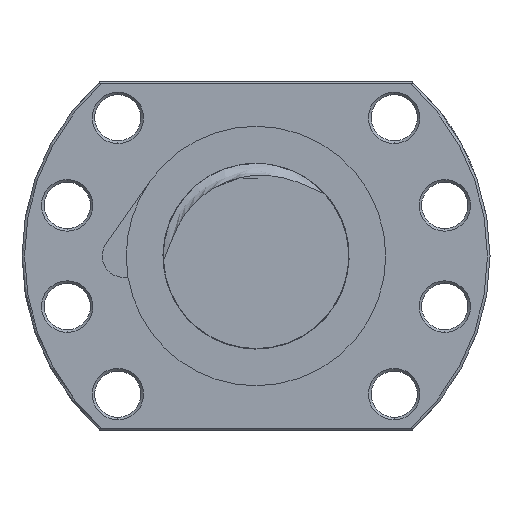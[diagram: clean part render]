
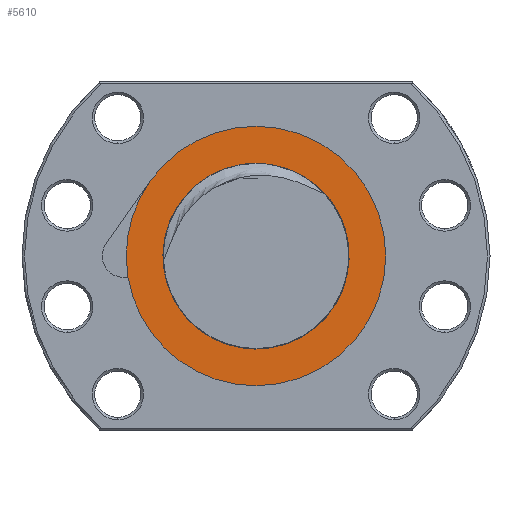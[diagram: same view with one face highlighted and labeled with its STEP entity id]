
A CAD part, left-side view. The second image highlights one B-rep face of the part: STEP entity #5610.
In plain terms, the highlighted planar face has unit normal (-1, 0, 0).
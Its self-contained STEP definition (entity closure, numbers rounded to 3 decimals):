
#4780 = VERTEX_POINT ( 'NONE', #6690 ) ;
#4784 = EDGE_CURVE ( 'NONE', #4780, #4786, #6605, .T. ) ;
#4786 = VERTEX_POINT ( 'NONE', #6600 ) ;
#5065 = EDGE_CURVE ( 'NONE', #5066, #5326, #7054, .T. ) ;
#5066 = VERTEX_POINT ( 'NONE', #7173 ) ;
#5326 = VERTEX_POINT ( 'NONE', #7542 ) ;
#5328 = EDGE_CURVE ( 'NONE', #5326, #5329, #7537, .T. ) ;
#5329 = VERTEX_POINT ( 'NONE', #7532 ) ;
#5341 = VERTEX_POINT ( 'NONE', #7736 ) ;
#5350 = EDGE_CURVE ( 'NONE', #5329, #5341, #7715, .T. ) ;
#5607 = VERTEX_POINT ( 'NONE', #21074 ) ;
#5609 = EDGE_CURVE ( 'NONE', #5607, #4780, #20703, .T. ) ;
#5610 = ADVANCED_FACE ( 'NONE', ( #20720, #20753 ), #20750, .T. ) ;
#5611 = EDGE_LOOP ( 'NONE', ( #5612, #5613, #5615 ) ) ;
#5612 = ORIENTED_EDGE ( 'NONE', *, *, #5609, .F. ) ;
#5613 = ORIENTED_EDGE ( 'NONE', *, *, #5614, .F. ) ;
#5614 = EDGE_CURVE ( 'NONE', #4786, #5607, #20799, .T. ) ;
#5615 = ORIENTED_EDGE ( 'NONE', *, *, #4784, .F. ) ;
#5622 = EDGE_LOOP ( 'NONE', ( #5623, #5640, #5641, #5642 ) ) ;
#5623 = ORIENTED_EDGE ( 'NONE', *, *, #5624, .T. ) ;
#5624 = EDGE_CURVE ( 'NONE', #5341, #5066, #21490, .T. ) ;
#5640 = ORIENTED_EDGE ( 'NONE', *, *, #5065, .T. ) ;
#5641 = ORIENTED_EDGE ( 'NONE', *, *, #5328, .T. ) ;
#5642 = ORIENTED_EDGE ( 'NONE', *, *, #5350, .T. ) ;
#6600 = CARTESIAN_POINT ( 'NONE',  ( -108.8, -14.421, 10.938 ) ) ;
#6601 = DIRECTION ( 'NONE',  ( 0., 0., 1. ) ) ;
#6602 = DIRECTION ( 'NONE',  ( -1., 0., 0. ) ) ;
#6603 = CARTESIAN_POINT ( 'NONE',  ( -108.8, 0., 0. ) ) ;
#6604 = AXIS2_PLACEMENT_3D ( 'NONE', #6603, #6602, #6601 ) ;
#6605 = CIRCLE ( 'NONE', #6604, 18.1 ) ;
#6690 = CARTESIAN_POINT ( 'NONE',  ( -108.8, 0., -18.1 ) ) ;
#7054 = CIRCLE ( 'NONE', #7191, 25.225 ) ;
#7173 = CARTESIAN_POINT ( 'NONE',  ( -108.8, 24.891, -4.091 ) ) ;
#7174 = DIRECTION ( 'NONE',  ( 0., 0., 1. ) ) ;
#7189 = DIRECTION ( 'NONE',  ( -1., 0., 0. ) ) ;
#7190 = CARTESIAN_POINT ( 'NONE',  ( -108.8, 0., 0. ) ) ;
#7191 = AXIS2_PLACEMENT_3D ( 'NONE', #7190, #7189, #7174 ) ;
#7532 = CARTESIAN_POINT ( 'NONE',  ( -108.8, 0., 25.225 ) ) ;
#7533 = DIRECTION ( 'NONE',  ( 0., 0., 1. ) ) ;
#7534 = DIRECTION ( 'NONE',  ( -1., 0., 0. ) ) ;
#7535 = CARTESIAN_POINT ( 'NONE',  ( -108.8, 0., 0. ) ) ;
#7536 = AXIS2_PLACEMENT_3D ( 'NONE', #7535, #7534, #7533 ) ;
#7537 = CIRCLE ( 'NONE', #7536, 25.225 ) ;
#7542 = CARTESIAN_POINT ( 'NONE',  ( -108.8, 0., -25.225 ) ) ;
#7711 = DIRECTION ( 'NONE',  ( 0., 0., 1. ) ) ;
#7712 = DIRECTION ( 'NONE',  ( -1., 0., 0. ) ) ;
#7713 = CARTESIAN_POINT ( 'NONE',  ( -108.8, 0., 0. ) ) ;
#7714 = AXIS2_PLACEMENT_3D ( 'NONE', #7713, #7712, #7711 ) ;
#7715 = CIRCLE ( 'NONE', #7714, 25.225 ) ;
#7736 = CARTESIAN_POINT ( 'NONE',  ( -108.8, 20.641, 14.5 ) ) ;
#20466 = CARTESIAN_POINT ( 'NONE',  ( -108.8, 15.483, 5.707 ) ) ;
#20468 = CARTESIAN_POINT ( 'NONE',  ( -108.8, 15.059, 6.441 ) ) ;
#20470 = CARTESIAN_POINT ( 'NONE',  ( -108.8, 14.122, 7.862 ) ) ;
#20472 = CARTESIAN_POINT ( 'NONE',  ( -108.8, 13.616, 8.539 ) ) ;
#20474 = CARTESIAN_POINT ( 'NONE',  ( -108.8, 12.524, 9.82 ) ) ;
#20475 = CARTESIAN_POINT ( 'NONE',  ( -108.8, 11.938, 10.425 ) ) ;
#20477 = CARTESIAN_POINT ( 'NONE',  ( -108.8, 10.995, 11.274 ) ) ;
#20479 = CARTESIAN_POINT ( 'NONE',  ( -108.8, 10.668, 11.548 ) ) ;
#20481 = CARTESIAN_POINT ( 'NONE',  ( -108.8, 9.999, 12.072 ) ) ;
#20496 = CARTESIAN_POINT ( 'NONE',  ( -108.8, 9.657, 12.322 ) ) ;
#20501 = CARTESIAN_POINT ( 'NONE',  ( -108.8, 8.61, 13.03 ) ) ;
#20502 = CARTESIAN_POINT ( 'NONE',  ( -108.8, 7.883, 13.452 ) ) ;
#20703 = CIRCLE ( 'NONE', #20718, 18.1 ) ;
#20714 = DIRECTION ( 'NONE',  ( -1., 0., 0. ) ) ;
#20716 = CARTESIAN_POINT ( 'NONE',  ( -108.8, 0., 0. ) ) ;
#20718 = AXIS2_PLACEMENT_3D ( 'NONE', #20716, #20714, #20755 ) ;
#20720 = FACE_BOUND ( 'NONE', #5611, .T. ) ;
#20729 = CARTESIAN_POINT ( 'NONE',  ( -108.8, 6.749, 14.007 ) ) ;
#20731 = CARTESIAN_POINT ( 'NONE',  ( -108.8, 6.364, 14.179 ) ) ;
#20733 = CARTESIAN_POINT ( 'NONE',  ( -108.8, 5.579, 14.496 ) ) ;
#20735 = CARTESIAN_POINT ( 'NONE',  ( -108.8, 5.177, 14.642 ) ) ;
#20737 = CARTESIAN_POINT ( 'NONE',  ( -108.8, 3.16, 15.295 ) ) ;
#20739 = CARTESIAN_POINT ( 'NONE',  ( -108.8, 1.508, 15.579 ) ) ;
#20740 = CARTESIAN_POINT ( 'NONE',  ( -108.8, -0.603, 15.645 ) ) ;
#20742 = CARTESIAN_POINT ( 'NONE',  ( -108.8, -1.029, 15.644 ) ) ;
#20744 = CARTESIAN_POINT ( 'NONE',  ( -108.8, -1.878, 15.611 ) ) ;
#20746 = CARTESIAN_POINT ( 'NONE',  ( -108.8, -2.3, 15.58 ) ) ;
#20748 = CARTESIAN_POINT ( 'NONE',  ( -108.8, -3.558, 15.446 ) ) ;
#20750 = PLANE ( 'NONE',  #20808 ) ;
#20753 = FACE_OUTER_BOUND ( 'NONE', #5622, .T. ) ;
#20755 = DIRECTION ( 'NONE',  ( 0., 0., 1. ) ) ;
#20799 = B_SPLINE_CURVE_WITH_KNOTS ( 'NONE', 3,
 ( #21096, #21094, #21092, #21091, #21089, #21087, #20913, #20911, #20909, #20908, #20906, #20904, #20902, #20900, #20748, #20746, #20744, #20742, #20740, #20739, #20737, #20735, #20733, #20731, #20729, #20502, #20501, #20496, #20481, #20479, #20477, #20475, #20474, #20472, #20470, #20468, #20466, #21526, #21430, #21425, #21602, #21486, #21423, #21422, #21160, #21157 ),
 .UNSPECIFIED., .F., .F.,
 ( 4, 2, 2, 2, 2, 2, 2, 2, 2, 2, 2, 2, 2, 2, 2, 2, 2, 2, 2, 2, 2, 2, 4 ),
 ( 0.056, 0.057, 0.058, 0.059, 0.061, 0.064, 0.067, 0.069, 0.07, 0.072, 0.077, 0.078, 0.079, 0.082, 0.083, 0.085, 0.087, 0.09, 0.092, 0.095, 0.096, 0.097, 0.097 ),
 .UNSPECIFIED. ) ;
#20804 = DIRECTION ( 'NONE',  ( -1., 0., 0. ) ) ;
#20806 = CARTESIAN_POINT ( 'NONE',  ( -108.8, 0., 18.1 ) ) ;
#20808 = AXIS2_PLACEMENT_3D ( 'NONE', #20806, #20804, #21104 ) ;
#20900 = CARTESIAN_POINT ( 'NONE',  ( -108.8, -4.385, 15.301 ) ) ;
#20902 = CARTESIAN_POINT ( 'NONE',  ( -108.8, -6.02, 14.904 ) ) ;
#20904 = CARTESIAN_POINT ( 'NONE',  ( -108.8, -6.83, 14.653 ) ) ;
#20906 = CARTESIAN_POINT ( 'NONE',  ( -108.8, -8.42, 14.052 ) ) ;
#20908 = CARTESIAN_POINT ( 'NONE',  ( -108.8, -9.193, 13.707 ) ) ;
#20909 = CARTESIAN_POINT ( 'NONE',  ( -108.8, -10.703, 12.947 ) ) ;
#20911 = CARTESIAN_POINT ( 'NONE',  ( -108.8, -11.439, 12.53 ) ) ;
#20913 = CARTESIAN_POINT ( 'NONE',  ( -108.8, -12.537, 11.89 ) ) ;
#21074 = CARTESIAN_POINT ( 'NONE',  ( -108.8, 18.096, 0.373 ) ) ;
#21087 = CARTESIAN_POINT ( 'NONE',  ( -108.8, -12.901, 11.675 ) ) ;
#21089 = CARTESIAN_POINT ( 'NONE',  ( -108.8, -13.456, 11.368 ) ) ;
#21091 = CARTESIAN_POINT ( 'NONE',  ( -108.8, -13.643, 11.268 ) ) ;
#21092 = CARTESIAN_POINT ( 'NONE',  ( -108.8, -14.023, 11.085 ) ) ;
#21094 = CARTESIAN_POINT ( 'NONE',  ( -108.8, -14.216, 11. ) ) ;
#21096 = CARTESIAN_POINT ( 'NONE',  ( -108.8, -14.421, 10.938 ) ) ;
#21104 = DIRECTION ( 'NONE',  ( 0., 0., 1. ) ) ;
#21157 = CARTESIAN_POINT ( 'NONE',  ( -108.8, 18.096, 0.373 ) ) ;
#21160 = CARTESIAN_POINT ( 'NONE',  ( -108.8, 17.967, 0.542 ) ) ;
#21422 = CARTESIAN_POINT ( 'NONE',  ( -108.8, 17.86, 0.726 ) ) ;
#21423 = CARTESIAN_POINT ( 'NONE',  ( -108.8, 17.659, 1.1 ) ) ;
#21425 = CARTESIAN_POINT ( 'NONE',  ( -108.8, 17.128, 2.259 ) ) ;
#21430 = CARTESIAN_POINT ( 'NONE',  ( -108.8, 16.614, 3.426 ) ) ;
#21486 = CARTESIAN_POINT ( 'NONE',  ( -108.8, 17.566, 1.291 ) ) ;
#21490 = CIRCLE ( 'NONE', #21609, 25.225 ) ;
#21526 = CARTESIAN_POINT ( 'NONE',  ( -108.8, 16.261, 4.2 ) ) ;
#21602 = CARTESIAN_POINT ( 'NONE',  ( -108.8, 17.297, 1.869 ) ) ;
#21605 = DIRECTION ( 'NONE',  ( 0., 0., 1. ) ) ;
#21607 = DIRECTION ( 'NONE',  ( -1., 0., 0. ) ) ;
#21608 = CARTESIAN_POINT ( 'NONE',  ( -108.8, 0., 0. ) ) ;
#21609 = AXIS2_PLACEMENT_3D ( 'NONE', #21608, #21607, #21605 ) ;
